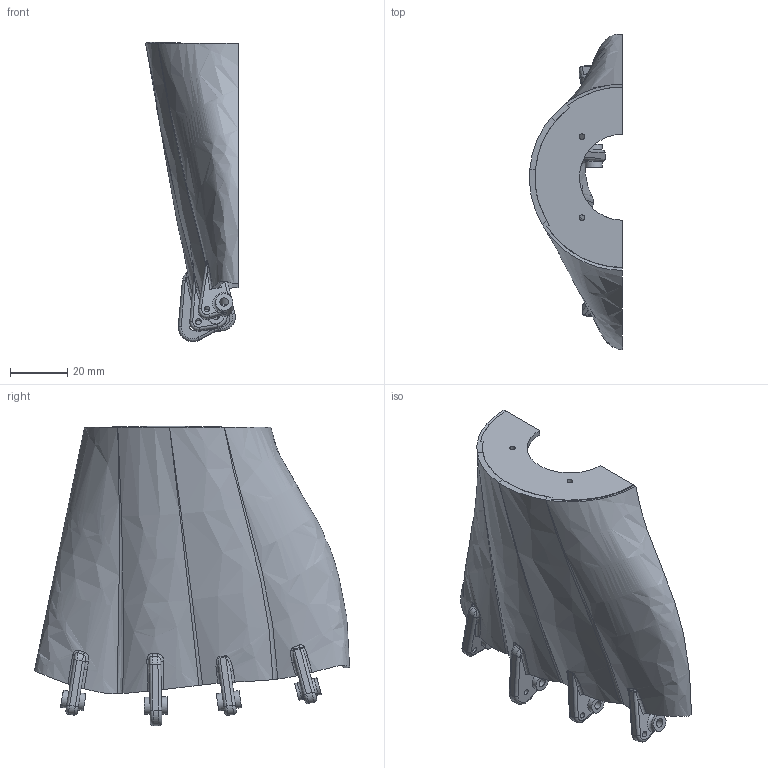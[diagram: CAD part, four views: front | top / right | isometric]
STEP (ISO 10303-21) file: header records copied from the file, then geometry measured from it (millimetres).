
FILE_DESCRIPTION(/* description */ (''),/* implementation_level */ '2;1');
FILE_NAME(/* name */ 'upper cover.stp',/* time_stamp */ '2023-08-14T21:48:25+03:00',/* author */ ('mosta'),/* organization */ (''),/* preprocessor_version */ 'ST-DEVELOPER v19.2',/* originating_system */ 'Autodesk Inventor 2024',/* authorisation */ '');
FILE_SCHEMA (('AUTOMOTIVE_DESIGN { 1 0 10303 214 3 1 1 }'));
Length unit declared in the file: millimetre
Products named in the file (1): upper cover
Bounding box: 32.46 x 109.99 x 104.48 mm (x, y, z)
Volume: 31633.9 mm3; surface area: 28688.1 mm2
Topology: 1 solids, 1 shells, 298 faces, 720 edges, 429 vertices
Faces by surface type: bspline 129, cylinder 83, plane 48, torus 20, sphere 10, cone 8
Full cylindrical faces by diameter (mm): 2 x14, 3 x4, 5 x4, 6 x7, 10 x3
Entity records: 27606 total; most frequent: CARTESIAN_POINT 21483, ORIENTED_EDGE 1424, DIRECTION 1022, EDGE_CURVE 712, VERTEX_POINT 430, AXIS2_PLACEMENT_3D 425, EDGE_LOOP 332, FACE_OUTER_BOUND 298
